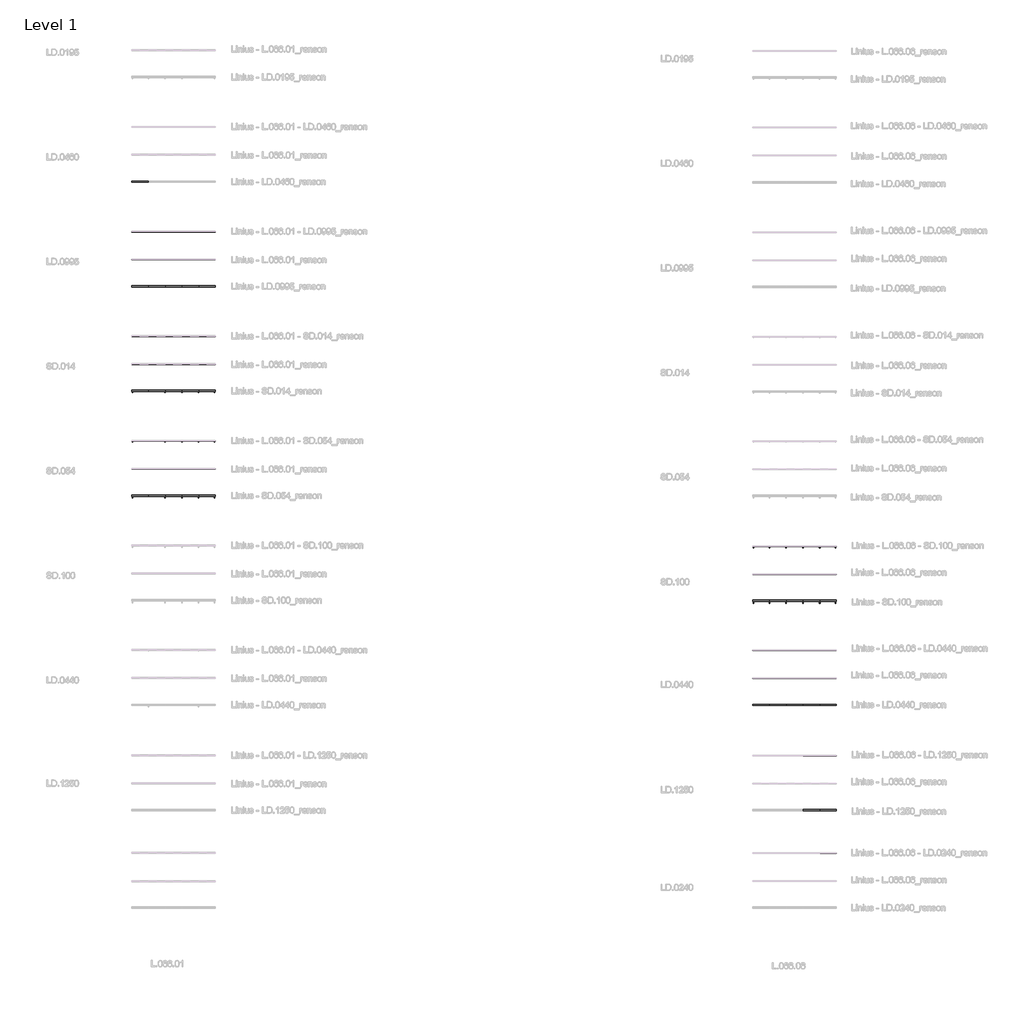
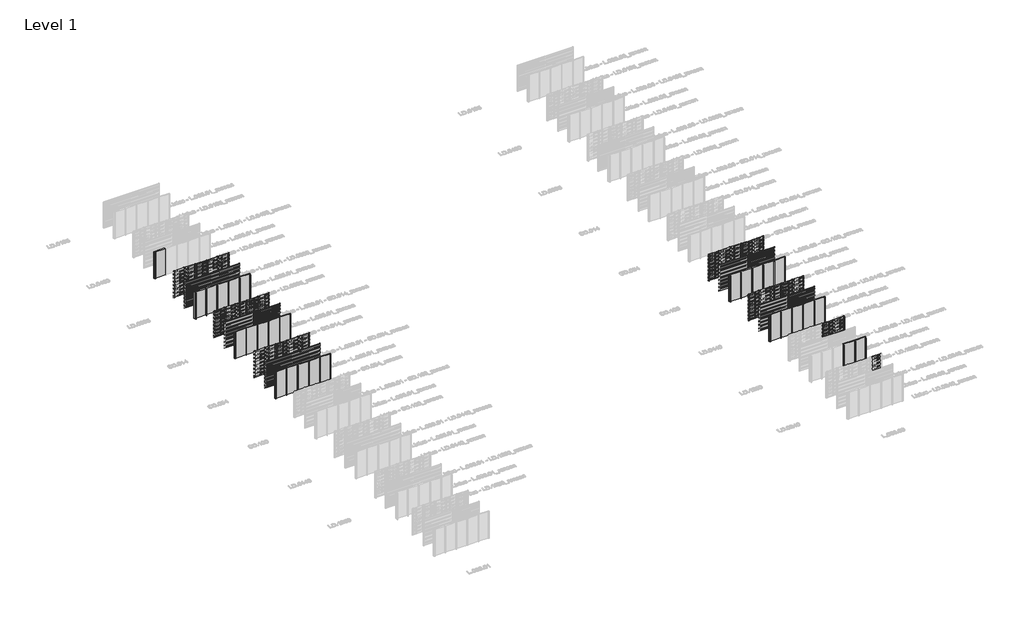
# One storey, part 2 of 540: 67 members, 61 plates.
"""IFC4 building model written with IfcOpenShell, lengths in millimetres."""

from ifc_helpers import new_model, si_unit, origin, origin_with_axes, place, context, project, spatial, polyline, outline, extrude, transform, mapped, element, save
from components import rectangular_mullion_fb497acc, rectangular_mullion_3facce28, rectangular_mullion_6cf2c509, rectangular_mullion_8b77bd57, rectangular_mullion_2c867e25, rectangular_mullion_7803f5c4, rectangular_mullion_c2c7736a, rectangular_mullion_bd250e2e, rectangular_mullion_7b49c8f1, rectangular_mullion_2b84ad7e, rectangular_mullion_0fd695e7, rectangular_mullion_9b796d85, rectangular_mullion_dfb17e98, rectangular_mullion_6132f1f1, rectangular_mullion_8f153c19, rectangular_mullion_5b30f3fd, rectangular_mullion_5e0e8e0a, rectangular_mullion_efb80f74, empty_system_panel_empty_aabbdda4

model = new_model("IFC4")

# Units and contexts
model_context = context("Model", 3, world=origin())
ifc_project = project(units=[si_unit("LENGTHUNIT", "METRE", prefix="MILLI")], contexts=[model_context])

# Site, building, storey
site = spatial("IfcSite", under=ifc_project)
building = spatial("IfcBuilding", under=site)
storey = spatial("IfcBuildingStorey", under=building, Name="Level 1", Elevation=0.0)

# Members
placement = place(None, origin())
rectangular_mullion_shape = rectangular_mullion_fb497acc(model_context)
element("IfcMember", 1, ObjectType="Rectangular Mullion : LD.0995_renson", at=placement, inside=storey, context=model_context, shape_type="MappedRepresentation", body=[
    mapped(rectangular_mullion_shape, transform((4066.6208096, 51524.0540136, 0.0), x_axis=(-1.0, 0.0, 0.0), y_axis=(0.0, 1.0, 0.0), z_axis=(0.0, 0.0, -1.0))),
])
element("IfcMember", 2, ObjectType="Rectangular Mullion : LD.0995_renson", at=placement, inside=storey, context=model_context, shape_type="MappedRepresentation", body=[
    mapped(rectangular_mullion_shape, transform((2866.6208097, 51524.0540136, 0.0), x_axis=(-1.0, 0.0, 0.0), y_axis=(0.0, 1.0, 0.0), z_axis=(0.0, 0.0, -1.0))),
])
element("IfcMember", 3, ObjectType="Rectangular Mullion : LD.0995_renson", at=placement, inside=storey, context=model_context, shape_type="MappedRepresentation", body=[
    mapped(rectangular_mullion_shape, transform((1666.6208099, 51524.0540136, 0.0), x_axis=(-1.0, 0.0, 0.0), y_axis=(0.0, 1.0, 0.0), z_axis=(0.0, 0.0, -1.0))),
])
element("IfcMember", 4, ObjectType="Rectangular Mullion : LD.0995_renson", at=placement, inside=storey, context=model_context, shape_type="MappedRepresentation", body=[
    mapped(rectangular_mullion_shape, transform((4066.6208096, 47524.0540136, 0.0), x_axis=(-1.0, 0.0, 0.0), y_axis=(0.0, 1.0, 0.0), z_axis=(0.0, 0.0, -1.0))),
])
element("IfcMember", 5, ObjectType="Rectangular Mullion : LD.0995_renson", at=placement, inside=storey, context=model_context, shape_type="MappedRepresentation", body=[
    mapped(rectangular_mullion_shape, transform((2866.6208097, 47524.0540136, 0.0), x_axis=(-1.0, 0.0, 0.0), y_axis=(0.0, 1.0, 0.0), z_axis=(0.0, 0.0, -1.0))),
])
element("IfcMember", 6, ObjectType="Rectangular Mullion : LD.0995_renson", at=placement, inside=storey, context=model_context, shape_type="MappedRepresentation", body=[
    mapped(rectangular_mullion_shape, transform((1666.6208099, 47524.0540136, 0.0), x_axis=(-1.0, 0.0, 0.0), y_axis=(0.0, 1.0, 0.0), z_axis=(0.0, 0.0, -1.0))),
])
element("IfcMember", 7, ObjectType="Rectangular Mullion : LD.0995_renson", at=placement, inside=storey, context=model_context, shape_type="MappedRepresentation", body=[
    mapped(rectangular_mullion_shape, transform((5266.6208095, 47524.0540136, 0.0), x_axis=(-1.0, 0.0, 0.0), y_axis=(0.0, 1.0, 0.0), z_axis=(0.0, 0.0, -1.0))),
])
element("IfcMember", 8, ObjectType="Rectangular Mullion : LD.0995_renson", at=placement, inside=storey, context=model_context, shape_type="MappedRepresentation", body=[
    mapped(rectangular_mullion_shape, transform((5266.6208095, 51524.0540136, 0.0), x_axis=(-1.0, 0.0, 0.0), y_axis=(0.0, 1.0, 0.0), z_axis=(0.0, 0.0, -1.0))),
])
rectangular_mullion_2_shape = rectangular_mullion_3facce28(model_context)
element("IfcMember", 9, ObjectType="Rectangular Mullion : SD.014_renson", at=placement, inside=storey, context=model_context, shape_type="MappedRepresentation", body=[
    mapped(rectangular_mullion_2_shape, transform((4066.6208096, 44024.0540136, 0.0), x_axis=(-1.0, 0.0, 0.0), y_axis=(0.0, 1.0, 0.0), z_axis=(0.0, 0.0, -1.0))),
])
element("IfcMember", 10, ObjectType="Rectangular Mullion : SD.014_renson", at=placement, inside=storey, context=model_context, shape_type="MappedRepresentation", body=[
    mapped(rectangular_mullion_2_shape, transform((2866.6208097, 44024.0540136, 0.0), x_axis=(-1.0, 0.0, 0.0), y_axis=(0.0, 1.0, 0.0), z_axis=(0.0, 0.0, -1.0))),
])
element("IfcMember", 11, ObjectType="Rectangular Mullion : SD.014_renson", at=placement, inside=storey, context=model_context, shape_type="MappedRepresentation", body=[
    mapped(rectangular_mullion_2_shape, transform((1666.6208099, 44024.0540136, 0.0), x_axis=(-1.0, 0.0, 0.0), y_axis=(0.0, 1.0, 0.0), z_axis=(0.0, 0.0, -1.0))),
])
element("IfcMember", 12, ObjectType="Rectangular Mullion : SD.014_renson", at=placement, inside=storey, context=model_context, shape_type="MappedRepresentation", body=[
    mapped(rectangular_mullion_2_shape, transform((4066.6208096, 40024.0540136, 0.0), x_axis=(-1.0, 0.0, 0.0), y_axis=(0.0, 1.0, 0.0), z_axis=(0.0, 0.0, -1.0))),
])
element("IfcMember", 13, ObjectType="Rectangular Mullion : SD.014_renson", at=placement, inside=storey, context=model_context, shape_type="MappedRepresentation", body=[
    mapped(rectangular_mullion_2_shape, transform((2866.6208097, 40024.0540136, 0.0), x_axis=(-1.0, 0.0, 0.0), y_axis=(0.0, 1.0, 0.0), z_axis=(0.0, 0.0, -1.0))),
])
element("IfcMember", 14, ObjectType="Rectangular Mullion : SD.014_renson", at=placement, inside=storey, context=model_context, shape_type="MappedRepresentation", body=[
    mapped(rectangular_mullion_2_shape, transform((1666.6208099, 40024.0540136, 0.0), x_axis=(-1.0, 0.0, 0.0), y_axis=(0.0, 1.0, 0.0), z_axis=(0.0, 0.0, -1.0))),
])
element("IfcMember", 15, ObjectType="Rectangular Mullion : SD.014_renson", at=placement, inside=storey, context=model_context, shape_type="MappedRepresentation", body=[
    mapped(rectangular_mullion_2_shape, transform((5266.6208095, 40024.0540136, 0.0), x_axis=(-1.0, 0.0, 0.0), y_axis=(0.0, 1.0, 0.0), z_axis=(0.0, 0.0, -1.0))),
])
element("IfcMember", 16, ObjectType="Rectangular Mullion : SD.014_renson", at=placement, inside=storey, context=model_context, shape_type="MappedRepresentation", body=[
    mapped(rectangular_mullion_2_shape, transform((5266.6208095, 44024.0540136, 0.0), x_axis=(-1.0, 0.0, 0.0), y_axis=(0.0, 1.0, 0.0), z_axis=(0.0, 0.0, -1.0))),
])
rectangular_mullion_3_shape = rectangular_mullion_6cf2c509(model_context)
element("IfcMember", 17, ObjectType="Rectangular Mullion : SD.054_renson", at=placement, inside=storey, context=model_context, shape_type="MappedRepresentation", body=[
    mapped(rectangular_mullion_3_shape, transform((4066.6208096, 36524.0540136, 0.0), x_axis=(-1.0, 0.0, 0.0), y_axis=(0.0, 1.0, 0.0), z_axis=(0.0, 0.0, -1.0))),
])
element("IfcMember", 18, ObjectType="Rectangular Mullion : SD.054_renson", at=placement, inside=storey, context=model_context, shape_type="MappedRepresentation", body=[
    mapped(rectangular_mullion_3_shape, transform((2866.6208097, 36524.0540136, 0.0), x_axis=(-1.0, 0.0, 0.0), y_axis=(0.0, 1.0, 0.0), z_axis=(0.0, 0.0, -1.0))),
])
element("IfcMember", 19, ObjectType="Rectangular Mullion : SD.054_renson", at=placement, inside=storey, context=model_context, shape_type="MappedRepresentation", body=[
    mapped(rectangular_mullion_3_shape, transform((1666.6208099, 36524.0540136, 0.0), x_axis=(-1.0, 0.0, 0.0), y_axis=(0.0, 1.0, 0.0), z_axis=(0.0, 0.0, -1.0))),
])
element("IfcMember", 20, ObjectType="Rectangular Mullion : SD.054_renson", at=placement, inside=storey, context=model_context, shape_type="MappedRepresentation", body=[
    mapped(rectangular_mullion_3_shape, transform((4066.6208096, 32524.0540136, 0.0), x_axis=(-1.0, 0.0, 0.0), y_axis=(0.0, 1.0, 0.0), z_axis=(0.0, 0.0, -1.0))),
])
element("IfcMember", 21, ObjectType="Rectangular Mullion : SD.054_renson", at=placement, inside=storey, context=model_context, shape_type="MappedRepresentation", body=[
    mapped(rectangular_mullion_3_shape, transform((2866.6208097, 32524.0540136, 0.0), x_axis=(-1.0, 0.0, 0.0), y_axis=(0.0, 1.0, 0.0), z_axis=(0.0, 0.0, -1.0))),
])
element("IfcMember", 22, ObjectType="Rectangular Mullion : SD.054_renson", at=placement, inside=storey, context=model_context, shape_type="MappedRepresentation", body=[
    mapped(rectangular_mullion_3_shape, transform((1666.6208099, 32524.0540136, 0.0), x_axis=(-1.0, 0.0, 0.0), y_axis=(0.0, 1.0, 0.0), z_axis=(0.0, 0.0, -1.0))),
])
element("IfcMember", 23, ObjectType="Rectangular Mullion : SD.054_renson", at=placement, inside=storey, context=model_context, shape_type="MappedRepresentation", body=[
    mapped(rectangular_mullion_3_shape, transform((5266.6208095, 32524.0540136, 0.0), x_axis=(-1.0, 0.0, 0.0), y_axis=(0.0, 1.0, 0.0), z_axis=(0.0, 0.0, -1.0))),
])
element("IfcMember", 24, ObjectType="Rectangular Mullion : SD.054_renson", at=placement, inside=storey, context=model_context, shape_type="MappedRepresentation", body=[
    mapped(rectangular_mullion_3_shape, transform((5266.6208095, 36524.0540136, 0.0), x_axis=(-1.0, 0.0, 0.0), y_axis=(0.0, 1.0, 0.0), z_axis=(0.0, 0.0, -1.0))),
])
rectangular_mullion_4_shape = rectangular_mullion_8b77bd57(model_context)
element("IfcMember", 25, ObjectType="Rectangular Mullion : SD.100_renson", at=placement, inside=storey, context=model_context, shape_type="MappedRepresentation", body=[
    mapped(rectangular_mullion_4_shape, transform((49766.6208097, 28981.0540136, 0.0), x_axis=(-1.0, 0.0, 0.0), y_axis=(0.0, 1.0, 0.0), z_axis=(0.0, 0.0, -1.0))),
])
element("IfcMember", 26, ObjectType="Rectangular Mullion : SD.100_renson", at=placement, inside=storey, context=model_context, shape_type="MappedRepresentation", body=[
    mapped(rectangular_mullion_4_shape, transform((48566.6208097, 28981.0540136, 0.0), x_axis=(-1.0, 0.0, 0.0), y_axis=(0.0, 1.0, 0.0), z_axis=(0.0, 0.0, -1.0))),
])
element("IfcMember", 27, ObjectType="Rectangular Mullion : SD.100_renson", at=placement, inside=storey, context=model_context, shape_type="MappedRepresentation", body=[
    mapped(rectangular_mullion_4_shape, transform((47366.6208097, 28981.0540136, 0.0), x_axis=(-1.0, 0.0, 0.0), y_axis=(0.0, 1.0, 0.0), z_axis=(0.0, 0.0, -1.0))),
])
element("IfcMember", 28, ObjectType="Rectangular Mullion : SD.100_renson", at=placement, inside=storey, context=model_context, shape_type="MappedRepresentation", body=[
    mapped(rectangular_mullion_4_shape, transform((46166.6208097, 28981.0540136, 0.0), x_axis=(-1.0, 0.0, 0.0), y_axis=(0.0, 1.0, 0.0), z_axis=(0.0, 0.0, -1.0))),
])
element("IfcMember", 29, ObjectType="Rectangular Mullion : SD.100_renson", at=placement, inside=storey, context=model_context, shape_type="MappedRepresentation", body=[
    mapped(rectangular_mullion_4_shape, transform((49766.6208097, 24981.0540136, 0.0), x_axis=(-1.0, 0.0, 0.0), y_axis=(0.0, 1.0, 0.0), z_axis=(0.0, 0.0, -1.0))),
])
element("IfcMember", 30, ObjectType="Rectangular Mullion : SD.100_renson", at=placement, inside=storey, context=model_context, shape_type="MappedRepresentation", body=[
    mapped(rectangular_mullion_4_shape, transform((48566.6208097, 24981.0540136, 0.0), x_axis=(-1.0, 0.0, 0.0), y_axis=(0.0, 1.0, 0.0), z_axis=(0.0, 0.0, -1.0))),
])
element("IfcMember", 31, ObjectType="Rectangular Mullion : SD.100_renson", at=placement, inside=storey, context=model_context, shape_type="MappedRepresentation", body=[
    mapped(rectangular_mullion_4_shape, transform((47366.6208097, 24981.0540136, 0.0), x_axis=(-1.0, 0.0, 0.0), y_axis=(0.0, 1.0, 0.0), z_axis=(0.0, 0.0, -1.0))),
])
element("IfcMember", 32, ObjectType="Rectangular Mullion : SD.100_renson", at=placement, inside=storey, context=model_context, shape_type="MappedRepresentation", body=[
    mapped(rectangular_mullion_4_shape, transform((46166.6208097, 24981.0540136, 0.0), x_axis=(-1.0, 0.0, 0.0), y_axis=(0.0, 1.0, 0.0), z_axis=(0.0, 0.0, -1.0))),
])
rectangular_mullion_5_shape = rectangular_mullion_2c867e25(model_context)
element("IfcMember", 33, ObjectType="Rectangular Mullion : LD.0440_renson", at=placement, inside=storey, context=model_context, shape_type="MappedRepresentation", body=[
    mapped(rectangular_mullion_5_shape, transform((49766.6208097, 21519.8040136, 0.0), x_axis=(-1.0, 0.0, 0.0), y_axis=(0.0, 1.0, 0.0), z_axis=(0.0, 0.0, -1.0))),
])
element("IfcMember", 34, ObjectType="Rectangular Mullion : LD.0440_renson", at=placement, inside=storey, context=model_context, shape_type="MappedRepresentation", body=[
    mapped(rectangular_mullion_5_shape, transform((48566.6208097, 21519.8040136, 0.0), x_axis=(-1.0, 0.0, 0.0), y_axis=(0.0, 1.0, 0.0), z_axis=(0.0, 0.0, -1.0))),
])
element("IfcMember", 35, ObjectType="Rectangular Mullion : LD.0440_renson", at=placement, inside=storey, context=model_context, shape_type="MappedRepresentation", body=[
    mapped(rectangular_mullion_5_shape, transform((47366.6208097, 21519.8040136, 0.0), x_axis=(-1.0, 0.0, 0.0), y_axis=(0.0, 1.0, 0.0), z_axis=(0.0, 0.0, -1.0))),
])
element("IfcMember", 36, ObjectType="Rectangular Mullion : LD.0440_renson", at=placement, inside=storey, context=model_context, shape_type="MappedRepresentation", body=[
    mapped(rectangular_mullion_5_shape, transform((46166.6208097, 21519.8040136, 0.0), x_axis=(-1.0, 0.0, 0.0), y_axis=(0.0, 1.0, 0.0), z_axis=(0.0, 0.0, -1.0))),
])
element("IfcMember", 37, ObjectType="Rectangular Mullion : LD.0440_renson", at=placement, inside=storey, context=model_context, shape_type="MappedRepresentation", body=[
    mapped(rectangular_mullion_5_shape, transform((49766.6208097, 17519.8040136, 0.0), x_axis=(-1.0, 0.0, 0.0), y_axis=(0.0, 1.0, 0.0), z_axis=(0.0, 0.0, -1.0))),
])
element("IfcMember", 38, ObjectType="Rectangular Mullion : LD.0440_renson", at=placement, inside=storey, context=model_context, shape_type="MappedRepresentation", body=[
    mapped(rectangular_mullion_5_shape, transform((48566.6208097, 17519.8040136, 0.0), x_axis=(-1.0, 0.0, 0.0), y_axis=(0.0, 1.0, 0.0), z_axis=(0.0, 0.0, -1.0))),
])
element("IfcMember", 39, ObjectType="Rectangular Mullion : LD.0440_renson", at=placement, inside=storey, context=model_context, shape_type="MappedRepresentation", body=[
    mapped(rectangular_mullion_5_shape, transform((47366.6208097, 17519.8040136, 0.0), x_axis=(-1.0, 0.0, 0.0), y_axis=(0.0, 1.0, 0.0), z_axis=(0.0, 0.0, -1.0))),
])
element("IfcMember", 40, ObjectType="Rectangular Mullion : LD.0440_renson", at=placement, inside=storey, context=model_context, shape_type="MappedRepresentation", body=[
    mapped(rectangular_mullion_5_shape, transform((46166.6208097, 17519.8040136, 0.0), x_axis=(-1.0, 0.0, 0.0), y_axis=(0.0, 1.0, 0.0), z_axis=(0.0, 0.0, -1.0))),
])
rectangular_mullion_6_shape = rectangular_mullion_7803f5c4(model_context)
element("IfcMember", 41, ObjectType="Rectangular Mullion : LD.1250_renson", at=placement, inside=storey, context=model_context, shape_type="MappedRepresentation", body=[
    mapped(rectangular_mullion_6_shape, transform((49766.6208097, 13981.0540136, 0.0), x_axis=(-1.0, 0.0, 0.0), y_axis=(0.0, 1.0, 0.0), z_axis=(0.0, 0.0, -1.0))),
])
element("IfcMember", 42, ObjectType="Rectangular Mullion : LD.1250_renson", at=placement, inside=storey, context=model_context, shape_type="MappedRepresentation", body=[
    mapped(rectangular_mullion_6_shape, transform((48566.6208097, 13981.0540136, 0.0), x_axis=(-1.0, 0.0, 0.0), y_axis=(0.0, 1.0, 0.0), z_axis=(0.0, 0.0, -1.0))),
])
element("IfcMember", 43, ObjectType="Rectangular Mullion : LD.1250_renson", at=placement, inside=storey, context=model_context, shape_type="MappedRepresentation", body=[
    mapped(rectangular_mullion_6_shape, transform((49766.6208097, 9981.0540136, 0.0), x_axis=(-1.0, 0.0, 0.0), y_axis=(0.0, 1.0, 0.0), z_axis=(0.0, 0.0, -1.0))),
])
element("IfcMember", 44, ObjectType="Rectangular Mullion : LD.1250_renson", at=placement, inside=storey, context=model_context, shape_type="MappedRepresentation", body=[
    mapped(rectangular_mullion_6_shape, transform((48566.6208097, 9981.0540136, 0.0), x_axis=(-1.0, 0.0, 0.0), y_axis=(0.0, 1.0, 0.0), z_axis=(0.0, 0.0, -1.0))),
])
rectangular_mullion_7_shape = rectangular_mullion_c2c7736a(model_context)
element("IfcMember", 45, ObjectType="Rectangular Mullion : LD.0460 - left_renson", at=placement, inside=storey, context=model_context, shape_type="MappedRepresentation", body=[
    mapped(rectangular_mullion_7_shape, transform((466.6208097, 55024.0540136, 0.0), x_axis=(-1.0, 0.0, 0.0), y_axis=(0.0, 1.0, 0.0), z_axis=(0.0, 0.0, -1.0))),
])
rectangular_mullion_8_shape = rectangular_mullion_bd250e2e(model_context)
element("IfcMember", 46, ObjectType="Rectangular Mullion : LD.0995 - left_renson", at=placement, inside=storey, context=model_context, shape_type="MappedRepresentation", body=[
    mapped(rectangular_mullion_8_shape, transform((466.6208097, 51524.0540136, 0.0), x_axis=(-1.0, 0.0, 0.0), y_axis=(0.0, 1.0, 0.0), z_axis=(0.0, 0.0, -1.0))),
])
element("IfcMember", 47, ObjectType="Rectangular Mullion : LD.0995 - left_renson", at=placement, inside=storey, context=model_context, shape_type="MappedRepresentation", body=[
    mapped(rectangular_mullion_8_shape, transform((466.6208097, 47524.0540136, 0.0), x_axis=(-1.0, 0.0, 0.0), y_axis=(0.0, 1.0, 0.0), z_axis=(0.0, 0.0, -1.0))),
])
rectangular_mullion_9_shape = rectangular_mullion_7b49c8f1(model_context)
element("IfcMember", 48, ObjectType="Rectangular Mullion : LD.0995 - right_renson", at=placement, inside=storey, context=model_context, shape_type="MappedRepresentation", body=[
    mapped(rectangular_mullion_9_shape, transform((6466.6208097, 51524.0540136, 3000.0), x_axis=(1.0, 0.0, 0.0), y_axis=(0.0, 1.0, 0.0), z_axis=(0.0, 0.0, 1.0))),
])
element("IfcMember", 49, ObjectType="Rectangular Mullion : LD.0995 - right_renson", at=placement, inside=storey, context=model_context, shape_type="MappedRepresentation", body=[
    mapped(rectangular_mullion_9_shape, transform((6466.6208097, 47524.0540136, 3000.0), x_axis=(1.0, 0.0, 0.0), y_axis=(0.0, 1.0, 0.0), z_axis=(0.0, 0.0, 1.0))),
])
rectangular_mullion_10_shape = rectangular_mullion_2b84ad7e(model_context)
element("IfcMember", 50, ObjectType="Rectangular Mullion : SD.014 - left_renson", at=placement, inside=storey, context=model_context, shape_type="MappedRepresentation", body=[
    mapped(rectangular_mullion_10_shape, transform((466.6208097, 44024.0540136, 0.0), x_axis=(-1.0, 0.0, 0.0), y_axis=(0.0, 1.0, 0.0), z_axis=(0.0, 0.0, -1.0))),
])
element("IfcMember", 51, ObjectType="Rectangular Mullion : SD.014 - left_renson", at=placement, inside=storey, context=model_context, shape_type="MappedRepresentation", body=[
    mapped(rectangular_mullion_10_shape, transform((466.6208097, 40024.0540136, 0.0), x_axis=(-1.0, 0.0, 0.0), y_axis=(0.0, 1.0, 0.0), z_axis=(0.0, 0.0, -1.0))),
])
rectangular_mullion_11_shape = rectangular_mullion_0fd695e7(model_context)
element("IfcMember", 52, ObjectType="Rectangular Mullion : SD.014 - right_renson", at=placement, inside=storey, context=model_context, shape_type="MappedRepresentation", body=[
    mapped(rectangular_mullion_11_shape, transform((6466.6208097, 44024.0540136, 3000.0), x_axis=(1.0, 0.0, 0.0), y_axis=(0.0, 1.0, 0.0), z_axis=(0.0, 0.0, 1.0))),
])
element("IfcMember", 53, ObjectType="Rectangular Mullion : SD.014 - right_renson", at=placement, inside=storey, context=model_context, shape_type="MappedRepresentation", body=[
    mapped(rectangular_mullion_11_shape, transform((6466.6208097, 40024.0540136, 3000.0), x_axis=(1.0, 0.0, 0.0), y_axis=(0.0, 1.0, 0.0), z_axis=(0.0, 0.0, 1.0))),
])
rectangular_mullion_12_shape = rectangular_mullion_9b796d85(model_context)
element("IfcMember", 54, ObjectType="Rectangular Mullion : SD.054 - left_renson", at=placement, inside=storey, context=model_context, shape_type="MappedRepresentation", body=[
    mapped(rectangular_mullion_12_shape, transform((466.6208097, 36524.0540136, 0.0), x_axis=(-1.0, 0.0, 0.0), y_axis=(0.0, 1.0, 0.0), z_axis=(0.0, 0.0, -1.0))),
])
element("IfcMember", 55, ObjectType="Rectangular Mullion : SD.054 - left_renson", at=placement, inside=storey, context=model_context, shape_type="MappedRepresentation", body=[
    mapped(rectangular_mullion_12_shape, transform((466.6208097, 32524.0540136, 0.0), x_axis=(-1.0, 0.0, 0.0), y_axis=(0.0, 1.0, 0.0), z_axis=(0.0, 0.0, -1.0))),
])
rectangular_mullion_13_shape = rectangular_mullion_dfb17e98(model_context)
element("IfcMember", 56, ObjectType="Rectangular Mullion : SD.054 - right_renson", at=placement, inside=storey, context=model_context, shape_type="MappedRepresentation", body=[
    mapped(rectangular_mullion_13_shape, transform((6466.6208097, 36524.0540136, 3000.0), x_axis=(1.0, 0.0, 0.0), y_axis=(0.0, 1.0, 0.0), z_axis=(0.0, 0.0, 1.0))),
])
element("IfcMember", 57, ObjectType="Rectangular Mullion : SD.054 - right_renson", at=placement, inside=storey, context=model_context, shape_type="MappedRepresentation", body=[
    mapped(rectangular_mullion_13_shape, transform((6466.6208097, 32524.0540136, 3000.0), x_axis=(1.0, 0.0, 0.0), y_axis=(0.0, 1.0, 0.0), z_axis=(0.0, 0.0, 1.0))),
])
rectangular_mullion_14_shape = rectangular_mullion_6132f1f1(model_context)
element("IfcMember", 58, ObjectType="Rectangular Mullion : SD.100 - left_renson", at=placement, inside=storey, context=model_context, shape_type="MappedRepresentation", body=[
    mapped(rectangular_mullion_14_shape, transform((44966.6208097, 28981.0540136, 0.0), x_axis=(-1.0, 0.0, 0.0), y_axis=(0.0, 1.0, 0.0), z_axis=(0.0, 0.0, -1.0))),
])
element("IfcMember", 59, ObjectType="Rectangular Mullion : SD.100 - left_renson", at=placement, inside=storey, context=model_context, shape_type="MappedRepresentation", body=[
    mapped(rectangular_mullion_14_shape, transform((44966.6208097, 24981.0540136, 0.0), x_axis=(-1.0, 0.0, 0.0), y_axis=(0.0, 1.0, 0.0), z_axis=(0.0, 0.0, -1.0))),
])
rectangular_mullion_15_shape = rectangular_mullion_8f153c19(model_context)
element("IfcMember", 60, ObjectType="Rectangular Mullion : SD.100 - right_renson", at=placement, inside=storey, context=model_context, shape_type="MappedRepresentation", body=[
    mapped(rectangular_mullion_15_shape, transform((50966.6208097, 28981.0540136, 3000.0), x_axis=(1.0, 0.0, 0.0), y_axis=(0.0, 1.0, 0.0), z_axis=(0.0, 0.0, 1.0))),
])
element("IfcMember", 61, ObjectType="Rectangular Mullion : SD.100 - right_renson", at=placement, inside=storey, context=model_context, shape_type="MappedRepresentation", body=[
    mapped(rectangular_mullion_15_shape, transform((50966.6208097, 24981.0540136, 3000.0), x_axis=(1.0, 0.0, 0.0), y_axis=(0.0, 1.0, 0.0), z_axis=(0.0, 0.0, 1.0))),
])
rectangular_mullion_16_shape = rectangular_mullion_5b30f3fd(model_context)
element("IfcMember", 62, ObjectType="Rectangular Mullion : LD.0440 - left_renson", at=placement, inside=storey, context=model_context, shape_type="MappedRepresentation", body=[
    mapped(rectangular_mullion_16_shape, transform((44966.6208097, 21519.8040136, 0.0), x_axis=(-1.0, 0.0, 0.0), y_axis=(0.0, 1.0, 0.0), z_axis=(0.0, 0.0, -1.0))),
])
element("IfcMember", 63, ObjectType="Rectangular Mullion : LD.0440 - left_renson", at=placement, inside=storey, context=model_context, shape_type="MappedRepresentation", body=[
    mapped(rectangular_mullion_16_shape, transform((44966.6208097, 17519.8040136, 0.0), x_axis=(-1.0, 0.0, 0.0), y_axis=(0.0, 1.0, 0.0), z_axis=(0.0, 0.0, -1.0))),
])
rectangular_mullion_17_shape = rectangular_mullion_5e0e8e0a(model_context)
element("IfcMember", 64, ObjectType="Rectangular Mullion : LD.0440 - right_renson", at=placement, inside=storey, context=model_context, shape_type="MappedRepresentation", body=[
    mapped(rectangular_mullion_17_shape, transform((50966.6208097, 21519.8040136, 3000.0), x_axis=(1.0, 0.0, 0.0), y_axis=(0.0, 1.0, 0.0), z_axis=(0.0, 0.0, 1.0))),
])
element("IfcMember", 65, ObjectType="Rectangular Mullion : LD.0440 - right_renson", at=placement, inside=storey, context=model_context, shape_type="MappedRepresentation", body=[
    mapped(rectangular_mullion_17_shape, transform((50966.6208097, 17519.8040136, 3000.0), x_axis=(1.0, 0.0, 0.0), y_axis=(0.0, 1.0, 0.0), z_axis=(0.0, 0.0, 1.0))),
])
rectangular_mullion_18_shape = rectangular_mullion_efb80f74(model_context)
element("IfcMember", 66, ObjectType="Rectangular Mullion : LD.1250 - right_renson", at=placement, inside=storey, context=model_context, shape_type="MappedRepresentation", body=[
    mapped(rectangular_mullion_18_shape, transform((50966.6208097, 13981.0540136, 3000.0), x_axis=(1.0, 0.0, 0.0), y_axis=(0.0, 1.0, 0.0), z_axis=(0.0, 0.0, 1.0))),
])
element("IfcMember", 67, ObjectType="Rectangular Mullion : LD.1250 - right_renson", at=placement, inside=storey, context=model_context, shape_type="MappedRepresentation", body=[
    mapped(rectangular_mullion_18_shape, transform((50966.6208097, 9981.0540136, 3000.0), x_axis=(1.0, 0.0, 0.0), y_axis=(0.0, 1.0, 0.0), z_axis=(0.0, 0.0, 1.0))),
])

# Plates
element("IfcPlate", 68, ObjectType="Linius - L.066.01_renson", at=placement, inside=storey, context=model_context, shape_type="SweptSolid", body=[
    extrude(outline(polyline([(466.6208097, 51525.0540136), (1666.6208099, 51525.0540136), (1666.6208099, 51523.0540136), (466.6208097, 51523.0540136), (466.6208097, 51525.0540136)])), origin_with_axes(), (0.0, 0.0, 1.0), 3000.0),
])
element("IfcPlate", 69, ObjectType="Linius - L.066.01_renson", at=placement, inside=storey, context=model_context, shape_type="SweptSolid", body=[
    extrude(outline(polyline([(1666.6208099, 51525.0540136), (2866.6208097, 51525.0540136), (2866.6208097, 51523.0540136), (1666.6208099, 51523.0540136), (1666.6208099, 51525.0540136)])), origin_with_axes(), (0.0, 0.0, 1.0), 3000.0),
])
element("IfcPlate", 70, ObjectType="Linius - L.066.01_renson", at=placement, inside=storey, context=model_context, shape_type="SweptSolid", body=[
    extrude(outline(polyline([(2866.6208097, 51525.0540136), (4066.6208096, 51525.0540136), (4066.6208096, 51523.0540136), (2866.6208097, 51523.0540136), (2866.6208097, 51525.0540136)])), origin_with_axes(), (0.0, 0.0, 1.0), 3000.0),
])
element("IfcPlate", 71, ObjectType="Linius - L.066.01_renson", at=placement, inside=storey, context=model_context, shape_type="SweptSolid", body=[
    extrude(outline(polyline([(5266.6208095, 51525.0540136), (6466.6208097, 51525.0540136), (6466.6208097, 51523.0540136), (5266.6208095, 51523.0540136), (5266.6208095, 51525.0540136)])), origin_with_axes(), (0.0, 0.0, 1.0), 3000.0),
])
element("IfcPlate", 72, ObjectType="Linius - L.066.01_renson", at=placement, inside=storey, context=model_context, shape_type="SweptSolid", body=[
    extrude(outline(polyline([(466.6208097, 49525.0540136), (6466.6208097, 49525.0540136), (6466.6208097, 49523.0540136), (466.6208097, 49523.0540136), (466.6208097, 49525.0540136)])), origin_with_axes(), (0.0, 0.0, 1.0), 3000.0),
])
element("IfcPlate", 73, ObjectType="Linius - L.066.01_renson", at=placement, inside=storey, context=model_context, shape_type="SweptSolid", body=[
    extrude(outline(polyline([(466.6208097, 44025.0540136), (1666.6208099, 44025.0540136), (1666.6208099, 44023.0540136), (466.6208097, 44023.0540136), (466.6208097, 44025.0540136)])), origin_with_axes(), (0.0, 0.0, 1.0), 3000.0),
])
element("IfcPlate", 74, ObjectType="Linius - L.066.01_renson", at=placement, inside=storey, context=model_context, shape_type="SweptSolid", body=[
    extrude(outline(polyline([(1666.6208099, 44025.0540136), (2866.6208097, 44025.0540136), (2866.6208097, 44023.0540136), (1666.6208099, 44023.0540136), (1666.6208099, 44025.0540136)])), origin_with_axes(), (0.0, 0.0, 1.0), 3000.0),
])
element("IfcPlate", 75, ObjectType="Linius - L.066.01_renson", at=placement, inside=storey, context=model_context, shape_type="SweptSolid", body=[
    extrude(outline(polyline([(2866.6208097, 44025.0540136), (4066.6208096, 44025.0540136), (4066.6208096, 44023.0540136), (2866.6208097, 44023.0540136), (2866.6208097, 44025.0540136)])), origin_with_axes(), (0.0, 0.0, 1.0), 3000.0),
])
element("IfcPlate", 76, ObjectType="Linius - L.066.01_renson", at=placement, inside=storey, context=model_context, shape_type="SweptSolid", body=[
    extrude(outline(polyline([(5266.6208095, 44025.0540136), (6466.6208097, 44025.0540136), (6466.6208097, 44023.0540136), (5266.6208095, 44023.0540136), (5266.6208095, 44025.0540136)])), origin_with_axes(), (0.0, 0.0, 1.0), 3000.0),
])
element("IfcPlate", 77, ObjectType="Linius - L.066.01_renson", at=placement, inside=storey, context=model_context, shape_type="SweptSolid", body=[
    extrude(outline(polyline([(466.6208097, 42025.0540136), (6466.6208097, 42025.0540136), (6466.6208097, 42023.0540136), (466.6208097, 42023.0540136), (466.6208097, 42025.0540136)])), origin_with_axes(), (0.0, 0.0, 1.0), 3000.0),
])
element("IfcPlate", 78, ObjectType="Linius - L.066.01_renson", at=placement, inside=storey, context=model_context, shape_type="SweptSolid", body=[
    extrude(outline(polyline([(466.6208097, 36525.0540136), (1666.6208099, 36525.0540136), (1666.6208099, 36523.0540136), (466.6208097, 36523.0540136), (466.6208097, 36525.0540136)])), origin_with_axes(), (0.0, 0.0, 1.0), 3000.0),
])
element("IfcPlate", 79, ObjectType="Linius - L.066.01_renson", at=placement, inside=storey, context=model_context, shape_type="SweptSolid", body=[
    extrude(outline(polyline([(1666.6208099, 36525.0540136), (2866.6208097, 36525.0540136), (2866.6208097, 36523.0540136), (1666.6208099, 36523.0540136), (1666.6208099, 36525.0540136)])), origin_with_axes(), (0.0, 0.0, 1.0), 3000.0),
])
element("IfcPlate", 80, ObjectType="Linius - L.066.01_renson", at=placement, inside=storey, context=model_context, shape_type="SweptSolid", body=[
    extrude(outline(polyline([(2866.6208097, 36525.0540136), (4066.6208096, 36525.0540136), (4066.6208096, 36523.0540136), (2866.6208097, 36523.0540136), (2866.6208097, 36525.0540136)])), origin_with_axes(), (0.0, 0.0, 1.0), 3000.0),
])
element("IfcPlate", 81, ObjectType="Linius - L.066.01_renson", at=placement, inside=storey, context=model_context, shape_type="SweptSolid", body=[
    extrude(outline(polyline([(5266.6208095, 36525.0540136), (6466.6208097, 36525.0540136), (6466.6208097, 36523.0540136), (5266.6208095, 36523.0540136), (5266.6208095, 36525.0540136)])), origin_with_axes(), (0.0, 0.0, 1.0), 3000.0),
])
element("IfcPlate", 82, ObjectType="Linius - L.066.01_renson", at=placement, inside=storey, context=model_context, shape_type="SweptSolid", body=[
    extrude(outline(polyline([(466.6208097, 34525.0540136), (6466.6208097, 34525.0540136), (6466.6208097, 34523.0540136), (466.6208097, 34523.0540136), (466.6208097, 34525.0540136)])), origin_with_axes(), (0.0, 0.0, 1.0), 3000.0),
])
element("IfcPlate", 83, ObjectType="Linius - L.066.01_renson", at=placement, inside=storey, context=model_context, shape_type="SweptSolid", body=[
    extrude(outline(polyline([(4066.6208096, 51525.0540136), (5266.6208095, 51525.0540136), (5266.6208095, 51523.0540136), (4066.6208096, 51523.0540136), (4066.6208096, 51525.0540136)])), origin_with_axes(), (0.0, 0.0, 1.0), 3000.0),
])
element("IfcPlate", 84, ObjectType="Linius - L.066.01_renson", at=placement, inside=storey, context=model_context, shape_type="SweptSolid", body=[
    extrude(outline(polyline([(4066.6208096, 44025.0540136), (5266.6208095, 44025.0540136), (5266.6208095, 44023.0540136), (4066.6208096, 44023.0540136), (4066.6208096, 44025.0540136)])), origin_with_axes(), (0.0, 0.0, 1.0), 3000.0),
])
element("IfcPlate", 85, ObjectType="Linius - L.066.01_renson", at=placement, inside=storey, context=model_context, shape_type="SweptSolid", body=[
    extrude(outline(polyline([(4066.6208096, 36525.0540136), (5266.6208095, 36525.0540136), (5266.6208095, 36523.0540136), (4066.6208096, 36523.0540136), (4066.6208096, 36525.0540136)])), origin_with_axes(), (0.0, 0.0, 1.0), 3000.0),
])
element("IfcPlate", 86, ObjectType="Linius - L.066.06_renson", at=placement, inside=storey, context=model_context, shape_type="SweptSolid", body=[
    extrude(outline(polyline([(44966.6208097, 28982.0540136), (46166.6208097, 28982.0540136), (46166.6208097, 28980.0540136), (44966.6208097, 28980.0540136), (44966.6208097, 28982.0540136)])), origin_with_axes(), (0.0, 0.0, 1.0), 3000.0),
])
element("IfcPlate", 87, ObjectType="Linius - L.066.06_renson", at=placement, inside=storey, context=model_context, shape_type="SweptSolid", body=[
    extrude(outline(polyline([(46166.6208097, 28982.0540136), (47366.6208097, 28982.0540136), (47366.6208097, 28980.0540136), (46166.6208097, 28980.0540136), (46166.6208097, 28982.0540136)])), origin_with_axes(), (0.0, 0.0, 1.0), 3000.0),
])
element("IfcPlate", 88, ObjectType="Linius - L.066.06_renson", at=placement, inside=storey, context=model_context, shape_type="SweptSolid", body=[
    extrude(outline(polyline([(47366.6208097, 28982.0540136), (48566.6208097, 28982.0540136), (48566.6208097, 28980.0540136), (47366.6208097, 28980.0540136), (47366.6208097, 28982.0540136)])), origin_with_axes(), (0.0, 0.0, 1.0), 3000.0),
])
element("IfcPlate", 89, ObjectType="Linius - L.066.06_renson", at=placement, inside=storey, context=model_context, shape_type="SweptSolid", body=[
    extrude(outline(polyline([(48566.6208097, 28982.0540136), (49766.6208097, 28982.0540136), (49766.6208097, 28980.0540136), (48566.6208097, 28980.0540136), (48566.6208097, 28982.0540136)])), origin_with_axes(), (0.0, 0.0, 1.0), 3000.0),
])
element("IfcPlate", 90, ObjectType="Linius - L.066.06_renson", at=placement, inside=storey, context=model_context, shape_type="SweptSolid", body=[
    extrude(outline(polyline([(49766.6208097, 28982.0540136), (50966.6208097, 28982.0540136), (50966.6208097, 28980.0540136), (49766.6208097, 28980.0540136), (49766.6208097, 28982.0540136)])), origin_with_axes(), (0.0, 0.0, 1.0), 3000.0),
])
element("IfcPlate", 91, ObjectType="Linius - L.066.06_renson", at=placement, inside=storey, context=model_context, shape_type="SweptSolid", body=[
    extrude(outline(polyline([(44966.6208097, 26982.0540136), (50966.6208097, 26982.0540136), (50966.6208097, 26980.0540136), (44966.6208097, 26980.0540136), (44966.6208097, 26982.0540136)])), origin_with_axes(), (0.0, 0.0, 1.0), 3000.0),
])
element("IfcPlate", 92, ObjectType="Linius - L.066.06_renson", at=placement, inside=storey, context=model_context, shape_type="SweptSolid", body=[
    extrude(outline(polyline([(44966.6208097, 21520.8040136), (46166.6208097, 21520.8040136), (46166.6208097, 21518.8040136), (44966.6208097, 21518.8040136), (44966.6208097, 21520.8040136)])), origin_with_axes(), (0.0, 0.0, 1.0), 3000.0),
])
element("IfcPlate", 93, ObjectType="Linius - L.066.06_renson", at=placement, inside=storey, context=model_context, shape_type="SweptSolid", body=[
    extrude(outline(polyline([(46166.6208097, 21520.8040136), (47366.6208097, 21520.8040136), (47366.6208097, 21518.8040136), (46166.6208097, 21518.8040136), (46166.6208097, 21520.8040136)])), origin_with_axes(), (0.0, 0.0, 1.0), 3000.0),
])
element("IfcPlate", 94, ObjectType="Linius - L.066.06_renson", at=placement, inside=storey, context=model_context, shape_type="SweptSolid", body=[
    extrude(outline(polyline([(47366.6208097, 21520.8040136), (48566.6208097, 21520.8040136), (48566.6208097, 21518.8040136), (47366.6208097, 21518.8040136), (47366.6208097, 21520.8040136)])), origin_with_axes(), (0.0, 0.0, 1.0), 3000.0),
])
element("IfcPlate", 95, ObjectType="Linius - L.066.06_renson", at=placement, inside=storey, context=model_context, shape_type="SweptSolid", body=[
    extrude(outline(polyline([(48566.6208097, 21520.8040136), (49766.6208097, 21520.8040136), (49766.6208097, 21518.8040136), (48566.6208097, 21518.8040136), (48566.6208097, 21520.8040136)])), origin_with_axes(), (0.0, 0.0, 1.0), 3000.0),
])
element("IfcPlate", 96, ObjectType="Linius - L.066.06_renson", at=placement, inside=storey, context=model_context, shape_type="SweptSolid", body=[
    extrude(outline(polyline([(49766.6208097, 21520.8040136), (50966.6208097, 21520.8040136), (50966.6208097, 21518.8040136), (49766.6208097, 21518.8040136), (49766.6208097, 21520.8040136)])), origin_with_axes(), (0.0, 0.0, 1.0), 3000.0),
])
element("IfcPlate", 97, ObjectType="Linius - L.066.06_renson", at=placement, inside=storey, context=model_context, shape_type="SweptSolid", body=[
    extrude(outline(polyline([(44966.6208097, 19520.8040136), (50966.6208097, 19520.8040136), (50966.6208097, 19518.8040136), (44966.6208097, 19518.8040136), (44966.6208097, 19520.8040136)])), origin_with_axes(), (0.0, 0.0, 1.0), 3000.0),
])
element("IfcPlate", 98, ObjectType="Linius - L.066.06_renson", at=placement, inside=storey, context=model_context, shape_type="SweptSolid", body=[
    extrude(outline(polyline([(48566.6208097, 13982.0540136), (49766.6208097, 13982.0540136), (49766.6208097, 13980.0540136), (48566.6208097, 13980.0540136), (48566.6208097, 13982.0540136)])), origin_with_axes(), (0.0, 0.0, 1.0), 3000.0),
])
element("IfcPlate", 99, ObjectType="Linius - L.066.06_renson", at=placement, inside=storey, context=model_context, shape_type="SweptSolid", body=[
    extrude(outline(polyline([(49766.6208097, 13982.0540136), (50966.6208097, 13982.0540136), (50966.6208097, 13980.0540136), (49766.6208097, 13980.0540136), (49766.6208097, 13982.0540136)])), origin_with_axes(), (0.0, 0.0, 1.0), 3000.0),
])
element("IfcPlate", 100, ObjectType="Linius - L.066.06_renson", at=placement, inside=storey, context=model_context, shape_type="SweptSolid", body=[
    extrude(outline(polyline([(49766.6208097, 6986.0270068), (50966.6208097, 6986.0270068), (50966.6208097, 6984.0270068), (49766.6208097, 6984.0270068), (49766.6208097, 6986.0270068)])), origin_with_axes(), (0.0, 0.0, 1.0), 3000.0),
])
empty_system_panel_empty_shape = empty_system_panel_empty_aabbdda4(model_context)
element("IfcPlate", 101, ObjectType="Empty System Panel : Empty", at=placement, inside=storey, context=model_context, shape_type="MappedRepresentation", body=[
    mapped(empty_system_panel_empty_shape, transform((5866.6208096, 47524.0540136, 0.0), x_axis=(-1.0, 0.0, 0.0), y_axis=(0.0, -1.0, 0.0), z_axis=(0.0, 0.0, 1.0))),
])
element("IfcPlate", 102, ObjectType="Empty System Panel : Empty", at=placement, inside=storey, context=model_context, shape_type="MappedRepresentation", body=[
    mapped(empty_system_panel_empty_shape, transform((5866.6208096, 40024.0540136, 0.0), x_axis=(-1.0, 0.0, 0.0), y_axis=(0.0, -1.0, 0.0), z_axis=(0.0, 0.0, 1.0))),
])
element("IfcPlate", 103, ObjectType="Empty System Panel : Empty", at=placement, inside=storey, context=model_context, shape_type="MappedRepresentation", body=[
    mapped(empty_system_panel_empty_shape, transform((5866.6208096, 32524.0540136, 0.0), x_axis=(-1.0, 0.0, 0.0), y_axis=(0.0, -1.0, 0.0), z_axis=(0.0, 0.0, 1.0))),
])
element("IfcPlate", 104, ObjectType="Empty System Panel : Empty", at=placement, inside=storey, context=model_context, shape_type="MappedRepresentation", body=[
    mapped(empty_system_panel_empty_shape, transform((1066.6208098, 55024.0540136, 0.0), x_axis=(-1.0, 0.0, 0.0), y_axis=(0.0, -1.0, 0.0), z_axis=(0.0, 0.0, 1.0))),
])
element("IfcPlate", 105, ObjectType="Empty System Panel : Empty", at=placement, inside=storey, context=model_context, shape_type="MappedRepresentation", body=[
    mapped(empty_system_panel_empty_shape, transform((3466.6208097, 47524.0540136, 0.0), x_axis=(-1.0, 0.0, 0.0), y_axis=(0.0, -1.0, 0.0), z_axis=(0.0, 0.0, 1.0))),
])
element("IfcPlate", 106, ObjectType="Empty System Panel : Empty", at=placement, inside=storey, context=model_context, shape_type="MappedRepresentation", body=[
    mapped(empty_system_panel_empty_shape, transform((2266.6208098, 47524.0540136, 0.0), x_axis=(-1.0, 0.0, 0.0), y_axis=(0.0, -1.0, 0.0), z_axis=(0.0, 0.0, 1.0))),
])
element("IfcPlate", 107, ObjectType="Empty System Panel : Empty", at=placement, inside=storey, context=model_context, shape_type="MappedRepresentation", body=[
    mapped(empty_system_panel_empty_shape, transform((1066.6208098, 47524.0540136, 0.0), x_axis=(-1.0, 0.0, 0.0), y_axis=(0.0, -1.0, 0.0), z_axis=(0.0, 0.0, 1.0))),
])
element("IfcPlate", 108, ObjectType="Empty System Panel : Empty", at=placement, inside=storey, context=model_context, shape_type="MappedRepresentation", body=[
    mapped(empty_system_panel_empty_shape, transform((3466.6208097, 40024.0540136, 0.0), x_axis=(-1.0, 0.0, 0.0), y_axis=(0.0, -1.0, 0.0), z_axis=(0.0, 0.0, 1.0))),
])
element("IfcPlate", 109, ObjectType="Empty System Panel : Empty", at=placement, inside=storey, context=model_context, shape_type="MappedRepresentation", body=[
    mapped(empty_system_panel_empty_shape, transform((2266.6208098, 40024.0540136, 0.0), x_axis=(-1.0, 0.0, 0.0), y_axis=(0.0, -1.0, 0.0), z_axis=(0.0, 0.0, 1.0))),
])
element("IfcPlate", 110, ObjectType="Empty System Panel : Empty", at=placement, inside=storey, context=model_context, shape_type="MappedRepresentation", body=[
    mapped(empty_system_panel_empty_shape, transform((1066.6208098, 40024.0540136, 0.0), x_axis=(-1.0, 0.0, 0.0), y_axis=(0.0, -1.0, 0.0), z_axis=(0.0, 0.0, 1.0))),
])
element("IfcPlate", 111, ObjectType="Empty System Panel : Empty", at=placement, inside=storey, context=model_context, shape_type="MappedRepresentation", body=[
    mapped(empty_system_panel_empty_shape, transform((3466.6208097, 32524.0540136, 0.0), x_axis=(-1.0, 0.0, 0.0), y_axis=(0.0, -1.0, 0.0), z_axis=(0.0, 0.0, 1.0))),
])
element("IfcPlate", 112, ObjectType="Empty System Panel : Empty", at=placement, inside=storey, context=model_context, shape_type="MappedRepresentation", body=[
    mapped(empty_system_panel_empty_shape, transform((2266.6208098, 32524.0540136, 0.0), x_axis=(-1.0, 0.0, 0.0), y_axis=(0.0, -1.0, 0.0), z_axis=(0.0, 0.0, 1.0))),
])
element("IfcPlate", 113, ObjectType="Empty System Panel : Empty", at=placement, inside=storey, context=model_context, shape_type="MappedRepresentation", body=[
    mapped(empty_system_panel_empty_shape, transform((1066.6208098, 32524.0540136, 0.0), x_axis=(-1.0, 0.0, 0.0), y_axis=(0.0, -1.0, 0.0), z_axis=(0.0, 0.0, 1.0))),
])
element("IfcPlate", 114, ObjectType="Empty System Panel : Empty", at=placement, inside=storey, context=model_context, shape_type="MappedRepresentation", body=[
    mapped(empty_system_panel_empty_shape, transform((4666.6208096, 32524.0540136, 0.0), x_axis=(-1.0, 0.0, 0.0), y_axis=(0.0, -1.0, 0.0), z_axis=(0.0, 0.0, 1.0))),
])
element("IfcPlate", 115, ObjectType="Empty System Panel : Empty", at=placement, inside=storey, context=model_context, shape_type="MappedRepresentation", body=[
    mapped(empty_system_panel_empty_shape, transform((4666.6208096, 40024.0540136, 0.0), x_axis=(-1.0, 0.0, 0.0), y_axis=(0.0, -1.0, 0.0), z_axis=(0.0, 0.0, 1.0))),
])
element("IfcPlate", 116, ObjectType="Empty System Panel : Empty", at=placement, inside=storey, context=model_context, shape_type="MappedRepresentation", body=[
    mapped(empty_system_panel_empty_shape, transform((4666.6208096, 47524.0540136, 0.0), x_axis=(-1.0, 0.0, 0.0), y_axis=(0.0, -1.0, 0.0), z_axis=(0.0, 0.0, 1.0))),
])
element("IfcPlate", 117, ObjectType="Empty System Panel : Empty", at=placement, inside=storey, context=model_context, shape_type="MappedRepresentation", body=[
    mapped(empty_system_panel_empty_shape, transform((50366.6208097, 24981.0540136, 0.0), x_axis=(-1.0, 0.0, 0.0), y_axis=(0.0, -1.0, 0.0), z_axis=(0.0, 0.0, 1.0))),
])
element("IfcPlate", 118, ObjectType="Empty System Panel : Empty", at=placement, inside=storey, context=model_context, shape_type="MappedRepresentation", body=[
    mapped(empty_system_panel_empty_shape, transform((50366.6208097, 17519.8040136, 0.0), x_axis=(-1.0, 0.0, 0.0), y_axis=(0.0, -1.0, 0.0), z_axis=(0.0, 0.0, 1.0))),
])
element("IfcPlate", 119, ObjectType="Empty System Panel : Empty", at=placement, inside=storey, context=model_context, shape_type="MappedRepresentation", body=[
    mapped(empty_system_panel_empty_shape, transform((50366.6208097, 9981.0540136, 0.0), x_axis=(-1.0, 0.0, 0.0), y_axis=(0.0, -1.0, 0.0), z_axis=(0.0, 0.0, 1.0))),
])
element("IfcPlate", 120, ObjectType="Empty System Panel : Empty", at=placement, inside=storey, context=model_context, shape_type="MappedRepresentation", body=[
    mapped(empty_system_panel_empty_shape, transform((49166.6208097, 24981.0540136, 0.0), x_axis=(-1.0, 0.0, 0.0), y_axis=(0.0, -1.0, 0.0), z_axis=(0.0, 0.0, 1.0))),
])
element("IfcPlate", 121, ObjectType="Empty System Panel : Empty", at=placement, inside=storey, context=model_context, shape_type="MappedRepresentation", body=[
    mapped(empty_system_panel_empty_shape, transform((47966.6208097, 24981.0540136, 0.0), x_axis=(-1.0, 0.0, 0.0), y_axis=(0.0, -1.0, 0.0), z_axis=(0.0, 0.0, 1.0))),
])
element("IfcPlate", 122, ObjectType="Empty System Panel : Empty", at=placement, inside=storey, context=model_context, shape_type="MappedRepresentation", body=[
    mapped(empty_system_panel_empty_shape, transform((46766.6208097, 24981.0540136, 0.0), x_axis=(-1.0, 0.0, 0.0), y_axis=(0.0, -1.0, 0.0), z_axis=(0.0, 0.0, 1.0))),
])
element("IfcPlate", 123, ObjectType="Empty System Panel : Empty", at=placement, inside=storey, context=model_context, shape_type="MappedRepresentation", body=[
    mapped(empty_system_panel_empty_shape, transform((45566.6208097, 24981.0540136, 0.0), x_axis=(-1.0, 0.0, 0.0), y_axis=(0.0, -1.0, 0.0), z_axis=(0.0, 0.0, 1.0))),
])
element("IfcPlate", 124, ObjectType="Empty System Panel : Empty", at=placement, inside=storey, context=model_context, shape_type="MappedRepresentation", body=[
    mapped(empty_system_panel_empty_shape, transform((49166.6208097, 17519.8040136, 0.0), x_axis=(-1.0, 0.0, 0.0), y_axis=(0.0, -1.0, 0.0), z_axis=(0.0, 0.0, 1.0))),
])
element("IfcPlate", 125, ObjectType="Empty System Panel : Empty", at=placement, inside=storey, context=model_context, shape_type="MappedRepresentation", body=[
    mapped(empty_system_panel_empty_shape, transform((47966.6208097, 17519.8040136, 0.0), x_axis=(-1.0, 0.0, 0.0), y_axis=(0.0, -1.0, 0.0), z_axis=(0.0, 0.0, 1.0))),
])
element("IfcPlate", 126, ObjectType="Empty System Panel : Empty", at=placement, inside=storey, context=model_context, shape_type="MappedRepresentation", body=[
    mapped(empty_system_panel_empty_shape, transform((46766.6208097, 17519.8040136, 0.0), x_axis=(-1.0, 0.0, 0.0), y_axis=(0.0, -1.0, 0.0), z_axis=(0.0, 0.0, 1.0))),
])
element("IfcPlate", 127, ObjectType="Empty System Panel : Empty", at=placement, inside=storey, context=model_context, shape_type="MappedRepresentation", body=[
    mapped(empty_system_panel_empty_shape, transform((45566.6208097, 17519.8040136, 0.0), x_axis=(-1.0, 0.0, 0.0), y_axis=(0.0, -1.0, 0.0), z_axis=(0.0, 0.0, 1.0))),
])
element("IfcPlate", 128, ObjectType="Empty System Panel : Empty", at=placement, inside=storey, context=model_context, shape_type="MappedRepresentation", body=[
    mapped(empty_system_panel_empty_shape, transform((49166.6208097, 9981.0540136, 0.0), x_axis=(-1.0, 0.0, 0.0), y_axis=(0.0, -1.0, 0.0), z_axis=(0.0, 0.0, 1.0))),
])

save(model, "model.ifc")
